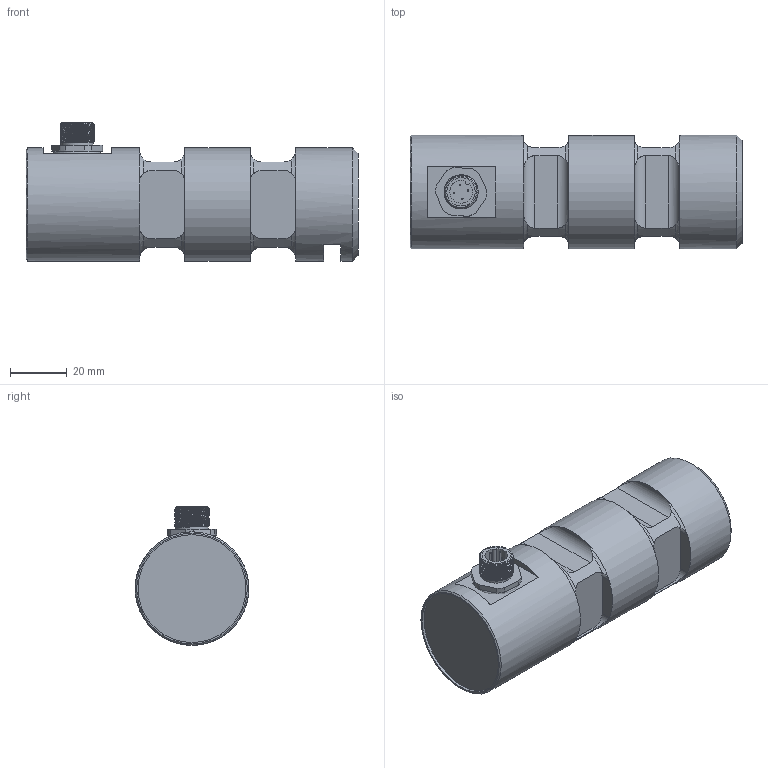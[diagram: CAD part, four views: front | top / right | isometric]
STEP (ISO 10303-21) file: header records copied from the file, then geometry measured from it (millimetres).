
FILE_DESCRIPTION(/* description */ ('Alibre Inc.'),/* implementation_level */ '2;1');
FILE_NAME(/* name */ 'export1',/* time_stamp */ '2018-05-07T13:50:21+02:00',/* author */ (''),/* organization */ (''),/* preprocessor_version */ 'ST-DEVELOPER v17',/* originating_system */ 'Alibre',/* authorisation */ '');
FILE_SCHEMA (('CONFIG_CONTROL_DESIGN'));
Length unit declared in the file: millimetre
Products named in the file (6): ID_1; ID_2; ID_3; ID_4
Bounding box: 117 x 40 x 48.86 mm (x, y, z)
Volume: 132592.9 mm3; surface area: 22366.6 mm2
Topology: 8 solids, 8 shells, 200 faces, 456 edges, 279 vertices
Faces by surface type: plane 83, cylinder 71, bspline 23, torus 17, cone 6
Full cylindrical faces by diameter (mm): 0.5 x8, 8 x2, 10 x4, 11.5 x1, 13 x1, 14.376 x1, 38 x1, 40 x3
Entity records: 19111 total; most frequent: CARTESIAN_POINT 14935, ORIENTED_EDGE 838, DIRECTION 511, EDGE_CURVE 414, VERTEX_POINT 267, FACE_BOUND 244, EDGE_LOOP 243, AXIS2_PLACEMENT_3D 226
